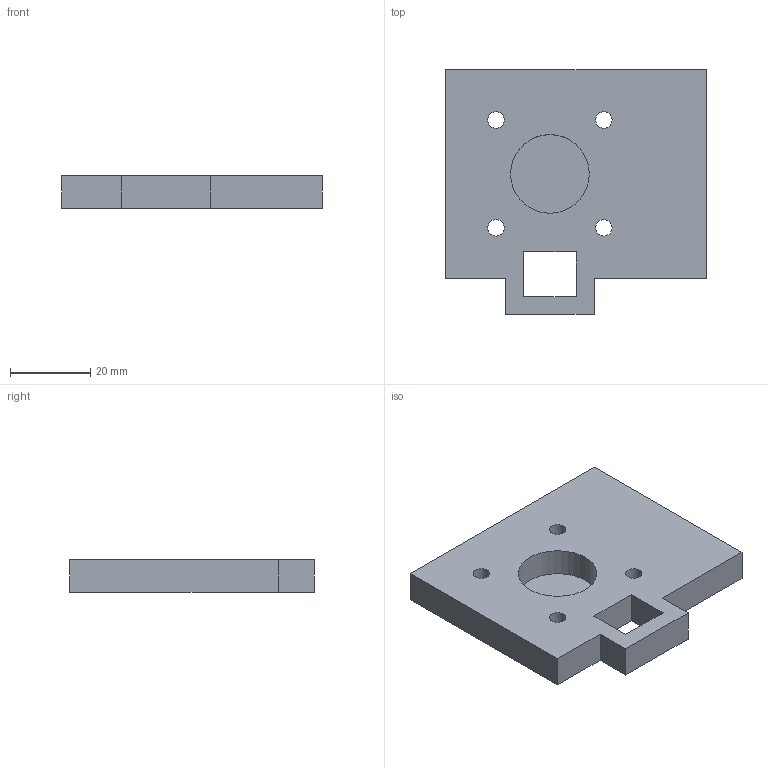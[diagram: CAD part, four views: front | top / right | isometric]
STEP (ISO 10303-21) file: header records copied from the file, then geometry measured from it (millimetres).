
FILE_DESCRIPTION(/* description */ (''),/* implementation_level */ '2;1');
FILE_NAME(/* name */ '03_cassette_common_rod_guide_PRINT.step',/* time_stamp */ '2026-11-14T21:40:00-08:00',/* author */ (''),/* organization */ (''),/* preprocessor_version */ 'ST-DEVELOPER v20.2',/* originating_system */ 'Autodesk Translation Framework v15.17.0.0',/* authorisation */ '');
FILE_SCHEMA (('AUTOMOTIVE_DESIGN { 1 0 10303 214 3 1 1 }'));
Length unit declared in the file: millimetre
Products named in the file (1): 2026-11-14-21-40-00-775
Bounding box: 65 x 61 x 8 mm (x, y, z)
Volume: 24906.8 mm3; surface area: 10004.3 mm2
Topology: 1 solids, 1 shells, 20 faces, 51 edges, 34 vertices
Faces by surface type: plane 15, cylinder 5
Full cylindrical faces by diameter (mm): 4.1 x4, 19.6 x1
Entity records: 658 total; most frequent: CARTESIAN_POINT 106, DIRECTION 103, ORIENTED_EDGE 102, EDGE_CURVE 51, LINE 41, VECTOR 41, VERTEX_POINT 34, EDGE_LOOP 31
